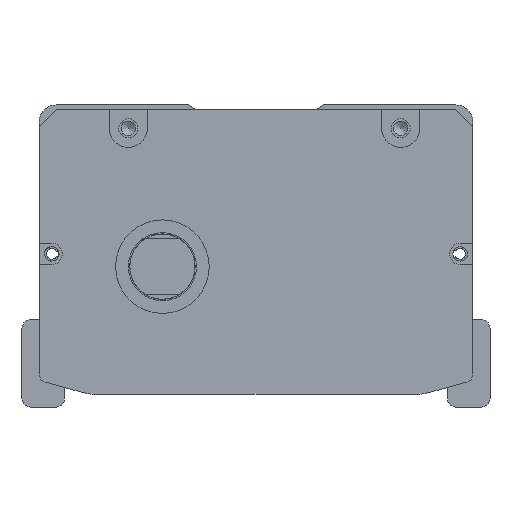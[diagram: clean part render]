
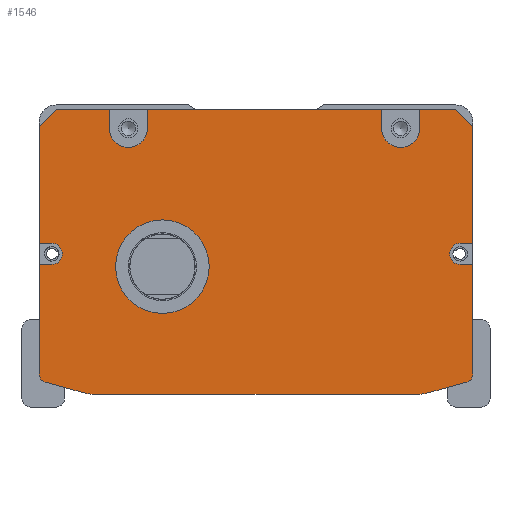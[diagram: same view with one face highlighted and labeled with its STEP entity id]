
A CAD part, front view. The second image highlights one B-rep face of the part: STEP entity #1546.
In plain terms, the highlighted planar face has unit normal (0, -1, 0).
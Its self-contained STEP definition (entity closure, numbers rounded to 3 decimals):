
#942=FACE_BOUND('',#2956,.T.);
#943=FACE_BOUND('',#2957,.T.);
#1546=ADVANCED_FACE('',(#942,#943),#2127,.F.);
#2127=PLANE('',#11575);
#2956=EDGE_LOOP('',(#5237,#5238,#5239,#5240,#5241,#5242,#5243,#5244,#5245,
#5246,#5247,#5248,#5249,#5250,#5251,#5252,#5253,#5254,#5255,#5256,#5257,
#5258,#5259,#5260,#5261,#5262,#5263,#5264));
#2957=EDGE_LOOP('',(#5265));
#3863=CIRCLE('',#11566,4.5);
#3864=CIRCLE('',#11567,4.5);
#3865=CIRCLE('',#11568,2.5);
#3866=CIRCLE('',#11569,2.);
#3867=CIRCLE('',#11570,10.);
#3868=CIRCLE('',#11571,10.);
#3869=CIRCLE('',#11572,2.);
#3870=CIRCLE('',#11573,2.5);
#3871=CIRCLE('',#11574,11.);
#5237=ORIENTED_EDGE('',*,*,#8482,.T.);
#5238=ORIENTED_EDGE('',*,*,#8906,.T.);
#5239=ORIENTED_EDGE('',*,*,#8907,.T.);
#5240=ORIENTED_EDGE('',*,*,#8908,.F.);
#5241=ORIENTED_EDGE('',*,*,#8909,.T.);
#5242=ORIENTED_EDGE('',*,*,#8910,.F.);
#5243=ORIENTED_EDGE('',*,*,#8911,.T.);
#5244=ORIENTED_EDGE('',*,*,#8912,.F.);
#5245=ORIENTED_EDGE('',*,*,#8913,.T.);
#5246=ORIENTED_EDGE('',*,*,#8914,.F.);
#5247=ORIENTED_EDGE('',*,*,#8915,.T.);
#5248=ORIENTED_EDGE('',*,*,#8916,.T.);
#5249=ORIENTED_EDGE('',*,*,#8514,.T.);
#5250=ORIENTED_EDGE('',*,*,#8917,.T.);
#5251=ORIENTED_EDGE('',*,*,#8918,.T.);
#5252=ORIENTED_EDGE('',*,*,#8919,.T.);
#5253=ORIENTED_EDGE('',*,*,#8510,.T.);
#5254=ORIENTED_EDGE('',*,*,#8920,.T.);
#5255=ORIENTED_EDGE('',*,*,#8921,.T.);
#5256=ORIENTED_EDGE('',*,*,#8922,.T.);
#5257=ORIENTED_EDGE('',*,*,#8923,.T.);
#5258=ORIENTED_EDGE('',*,*,#8924,.T.);
#5259=ORIENTED_EDGE('',*,*,#8925,.T.);
#5260=ORIENTED_EDGE('',*,*,#8926,.T.);
#5261=ORIENTED_EDGE('',*,*,#8486,.T.);
#5262=ORIENTED_EDGE('',*,*,#8927,.T.);
#5263=ORIENTED_EDGE('',*,*,#8928,.T.);
#5264=ORIENTED_EDGE('',*,*,#8929,.T.);
#5265=ORIENTED_EDGE('',*,*,#8930,.T.);
#7390=VERTEX_POINT('',#15886);
#7391=VERTEX_POINT('',#15888);
#7394=VERTEX_POINT('',#15894);
#7395=VERTEX_POINT('',#15896);
#7416=VERTEX_POINT('',#15941);
#7417=VERTEX_POINT('',#15943);
#7420=VERTEX_POINT('',#15949);
#7421=VERTEX_POINT('',#15951);
#7688=VERTEX_POINT('',#16758);
#7689=VERTEX_POINT('',#16760);
#7690=VERTEX_POINT('',#16762);
#7691=VERTEX_POINT('',#16764);
#7692=VERTEX_POINT('',#16766);
#7693=VERTEX_POINT('',#16768);
#7694=VERTEX_POINT('',#16770);
#7695=VERTEX_POINT('',#16772);
#7696=VERTEX_POINT('',#16774);
#7697=VERTEX_POINT('',#16776);
#7698=VERTEX_POINT('',#16779);
#7699=VERTEX_POINT('',#16781);
#7700=VERTEX_POINT('',#16784);
#7701=VERTEX_POINT('',#16786);
#7702=VERTEX_POINT('',#16788);
#7703=VERTEX_POINT('',#16790);
#7704=VERTEX_POINT('',#16792);
#7705=VERTEX_POINT('',#16794);
#7706=VERTEX_POINT('',#16797);
#7707=VERTEX_POINT('',#16799);
#7708=VERTEX_POINT('',#16802);
#8482=EDGE_CURVE('',#7391,#7390,#9917,.T.);
#8486=EDGE_CURVE('',#7395,#7394,#9921,.T.);
#8510=EDGE_CURVE('',#7417,#7416,#9945,.T.);
#8514=EDGE_CURVE('',#7421,#7420,#9949,.T.);
#8906=EDGE_CURVE('',#7390,#7688,#10186,.T.);
#8907=EDGE_CURVE('',#7688,#7689,#10187,.T.);
#8908=EDGE_CURVE('',#7690,#7689,#10188,.T.);
#8909=EDGE_CURVE('',#7690,#7691,#3863,.T.);
#8910=EDGE_CURVE('',#7692,#7691,#10189,.T.);
#8911=EDGE_CURVE('',#7692,#7693,#10190,.T.);
#8912=EDGE_CURVE('',#7694,#7693,#10191,.T.);
#8913=EDGE_CURVE('',#7694,#7695,#3864,.T.);
#8914=EDGE_CURVE('',#7696,#7695,#10192,.T.);
#8915=EDGE_CURVE('',#7696,#7697,#10193,.T.);
#8916=EDGE_CURVE('',#7697,#7421,#10194,.T.);
#8917=EDGE_CURVE('',#7420,#7698,#10195,.T.);
#8918=EDGE_CURVE('',#7698,#7699,#3865,.T.);
#8919=EDGE_CURVE('',#7699,#7417,#10196,.T.);
#8920=EDGE_CURVE('',#7416,#7700,#3866,.T.);
#8921=EDGE_CURVE('',#7700,#7701,#10197,.T.);
#8922=EDGE_CURVE('',#7701,#7702,#3867,.T.);
#8923=EDGE_CURVE('',#7702,#7703,#10198,.T.);
#8924=EDGE_CURVE('',#7703,#7704,#3868,.T.);
#8925=EDGE_CURVE('',#7704,#7705,#10199,.T.);
#8926=EDGE_CURVE('',#7705,#7395,#3869,.T.);
#8927=EDGE_CURVE('',#7394,#7706,#10200,.T.);
#8928=EDGE_CURVE('',#7706,#7707,#3870,.T.);
#8929=EDGE_CURVE('',#7707,#7391,#10201,.T.);
#8930=EDGE_CURVE('',#7708,#7708,#3871,.T.);
#9917=LINE('',#15887,#10570);
#9921=LINE('',#15895,#10574);
#9945=LINE('',#15942,#10598);
#9949=LINE('',#15950,#10602);
#10186=LINE('',#16757,#10839);
#10187=LINE('',#16759,#10840);
#10188=LINE('',#16761,#10841);
#10189=LINE('',#16765,#10842);
#10190=LINE('',#16767,#10843);
#10191=LINE('',#16769,#10844);
#10192=LINE('',#16773,#10845);
#10193=LINE('',#16775,#10846);
#10194=LINE('',#16777,#10847);
#10195=LINE('',#16778,#10848);
#10196=LINE('',#16782,#10849);
#10197=LINE('',#16785,#10850);
#10198=LINE('',#16789,#10851);
#10199=LINE('',#16793,#10852);
#10200=LINE('',#16796,#10853);
#10201=LINE('',#16800,#10854);
#10570=VECTOR('',#12682,1.);
#10574=VECTOR('',#12686,1.);
#10598=VECTOR('',#12712,1.);
#10602=VECTOR('',#12716,1.);
#10839=VECTOR('',#13559,1.);
#10840=VECTOR('',#13560,1.);
#10841=VECTOR('',#13561,1.);
#10842=VECTOR('',#13564,1.);
#10843=VECTOR('',#13565,1.);
#10844=VECTOR('',#13566,1.);
#10845=VECTOR('',#13569,1.);
#10846=VECTOR('',#13570,1.);
#10847=VECTOR('',#13571,1.);
#10848=VECTOR('',#13572,1.);
#10849=VECTOR('',#13575,1.);
#10850=VECTOR('',#13578,1.);
#10851=VECTOR('',#13581,1.);
#10852=VECTOR('',#13584,1.);
#10853=VECTOR('',#13587,1.);
#10854=VECTOR('',#13590,1.);
#11566=AXIS2_PLACEMENT_3D('',#16763,#13562,#13563);
#11567=AXIS2_PLACEMENT_3D('',#16771,#13567,#13568);
#11568=AXIS2_PLACEMENT_3D('',#16780,#13573,#13574);
#11569=AXIS2_PLACEMENT_3D('',#16783,#13576,#13577);
#11570=AXIS2_PLACEMENT_3D('',#16787,#13579,#13580);
#11571=AXIS2_PLACEMENT_3D('',#16791,#13582,#13583);
#11572=AXIS2_PLACEMENT_3D('',#16795,#13585,#13586);
#11573=AXIS2_PLACEMENT_3D('',#16798,#13588,#13589);
#11574=AXIS2_PLACEMENT_3D('',#16801,#13591,#13592);
#11575=AXIS2_PLACEMENT_3D('',#16803,#13593,#13594);
#12682=DIRECTION('',(0.,0.,1.));
#12686=DIRECTION('',(0.,0.,1.));
#12712=DIRECTION('',(0.,0.,-1.));
#12716=DIRECTION('',(0.,0.,-1.));
#13559=DIRECTION('',(-0.707,0.,0.707));
#13560=DIRECTION('',(-1.,0.,0.));
#13561=DIRECTION('',(0.,0.,1.));
#13562=DIRECTION('',(0.,1.,0.));
#13563=DIRECTION('',(0.,0.,1.));
#13564=DIRECTION('',(0.,0.,-1.));
#13565=DIRECTION('',(-1.,0.,0.));
#13566=DIRECTION('',(0.,0.,1.));
#13567=DIRECTION('',(0.,1.,0.));
#13568=DIRECTION('',(0.,0.,1.));
#13569=DIRECTION('',(0.,0.,-1.));
#13570=DIRECTION('',(-1.,0.,0.));
#13571=DIRECTION('',(-0.707,0.,-0.707));
#13572=DIRECTION('',(1.,0.,0.));
#13573=DIRECTION('',(0.,1.,0.));
#13574=DIRECTION('',(0.,0.,1.));
#13575=DIRECTION('',(-1.,0.,0.));
#13576=DIRECTION('',(0.,-1.,0.));
#13577=DIRECTION('',(0.,0.,1.));
#13578=DIRECTION('',(0.963,0.,-0.269));
#13579=DIRECTION('',(0.,-1.,0.));
#13580=DIRECTION('',(0.,0.,1.));
#13581=DIRECTION('',(1.,0.,0.));
#13582=DIRECTION('',(0.,-1.,0.));
#13583=DIRECTION('',(0.,0.,-1.));
#13584=DIRECTION('',(0.963,0.,0.269));
#13585=DIRECTION('',(0.,-1.,0.));
#13586=DIRECTION('',(0.,0.,-1.));
#13587=DIRECTION('',(-1.,0.,0.));
#13588=DIRECTION('',(0.,1.,0.));
#13589=DIRECTION('',(0.,0.,1.));
#13590=DIRECTION('',(1.,0.,0.));
#13591=DIRECTION('',(0.,1.,0.));
#13592=DIRECTION('',(0.,0.,1.));
#13593=DIRECTION('',(0.,1.,0.));
#13594=DIRECTION('',(1.,0.,0.));
#15886=CARTESIAN_POINT('',(47.808,-107.5,-5.));
#15887=CARTESIAN_POINT('',(47.808,-107.5,-1.));
#15888=CARTESIAN_POINT('',(47.808,-107.5,-32.5));
#15894=CARTESIAN_POINT('',(47.808,-107.5,-37.5));
#15895=CARTESIAN_POINT('',(47.808,-107.5,-1.));
#15896=CARTESIAN_POINT('',(47.808,-107.5,-63.212));
#15941=CARTESIAN_POINT('',(-54.192,-107.5,-63.212));
#15942=CARTESIAN_POINT('',(-54.192,-107.5,-62.));
#15943=CARTESIAN_POINT('',(-54.192,-107.5,-37.5));
#15949=CARTESIAN_POINT('',(-54.192,-107.5,-32.5));
#15950=CARTESIAN_POINT('',(-54.192,-107.5,-62.));
#15951=CARTESIAN_POINT('',(-54.192,-107.5,-5.));
#16757=CARTESIAN_POINT('',(43.808,-107.5,-1.));
#16758=CARTESIAN_POINT('',(43.808,-107.5,-1.));
#16759=CARTESIAN_POINT('',(-3.192,-107.5,-1.));
#16760=CARTESIAN_POINT('',(35.308,-107.5,-1.));
#16761=CARTESIAN_POINT('',(35.308,-107.5,-1.));
#16762=CARTESIAN_POINT('',(35.308,-107.5,-5.5));
#16763=CARTESIAN_POINT('',(30.808,-107.5,-5.5));
#16764=CARTESIAN_POINT('',(26.308,-107.5,-5.5));
#16765=CARTESIAN_POINT('',(26.308,-107.5,-1.));
#16766=CARTESIAN_POINT('',(26.308,-107.5,-1.));
#16767=CARTESIAN_POINT('',(-54.192,-107.5,-1.));
#16768=CARTESIAN_POINT('',(-28.692,-107.5,-1.));
#16769=CARTESIAN_POINT('',(-28.692,-107.5,-3.5));
#16770=CARTESIAN_POINT('',(-28.692,-107.5,-5.5));
#16771=CARTESIAN_POINT('',(-33.192,-107.5,-5.5));
#16772=CARTESIAN_POINT('',(-37.692,-107.5,-5.5));
#16773=CARTESIAN_POINT('',(-37.692,-107.5,-1.));
#16774=CARTESIAN_POINT('',(-37.692,-107.5,-1.));
#16775=CARTESIAN_POINT('',(-54.192,-107.5,-1.));
#16776=CARTESIAN_POINT('',(-50.192,-107.5,-1.));
#16777=CARTESIAN_POINT('',(-54.192,-107.5,-5.));
#16778=CARTESIAN_POINT('',(-3.192,-107.5,-32.5));
#16779=CARTESIAN_POINT('',(-51.192,-107.5,-32.5));
#16780=CARTESIAN_POINT('',(-51.192,-107.5,-35.));
#16781=CARTESIAN_POINT('',(-51.192,-107.5,-37.5));
#16782=CARTESIAN_POINT('',(-3.192,-107.5,-37.5));
#16783=CARTESIAN_POINT('',(-52.192,-107.5,-63.212));
#16784=CARTESIAN_POINT('',(-52.731,-107.5,-65.138));
#16785=CARTESIAN_POINT('',(-55.807,-107.5,-64.279));
#16786=CARTESIAN_POINT('',(-43.809,-107.5,-67.631));
#16787=CARTESIAN_POINT('',(-41.118,-107.5,-58.));
#16788=CARTESIAN_POINT('',(-41.118,-107.5,-68.));
#16789=CARTESIAN_POINT('',(-54.692,-107.5,-68.));
#16790=CARTESIAN_POINT('',(34.733,-107.5,-68.));
#16791=CARTESIAN_POINT('',(34.733,-107.5,-58.));
#16792=CARTESIAN_POINT('',(37.424,-107.5,-67.631));
#16793=CARTESIAN_POINT('',(49.422,-107.5,-64.279));
#16794=CARTESIAN_POINT('',(46.346,-107.5,-65.138));
#16795=CARTESIAN_POINT('',(45.808,-107.5,-63.212));
#16796=CARTESIAN_POINT('',(-3.192,-107.5,-37.5));
#16797=CARTESIAN_POINT('',(44.808,-107.5,-37.5));
#16798=CARTESIAN_POINT('',(44.808,-107.5,-35.));
#16799=CARTESIAN_POINT('',(44.808,-107.5,-32.5));
#16800=CARTESIAN_POINT('',(-3.192,-107.5,-32.5));
#16801=CARTESIAN_POINT('',(-25.192,-107.5,-38.));
#16802=CARTESIAN_POINT('',(-25.192,-107.5,-27.));
#16803=CARTESIAN_POINT('',(-3.192,-107.5,-1.));
